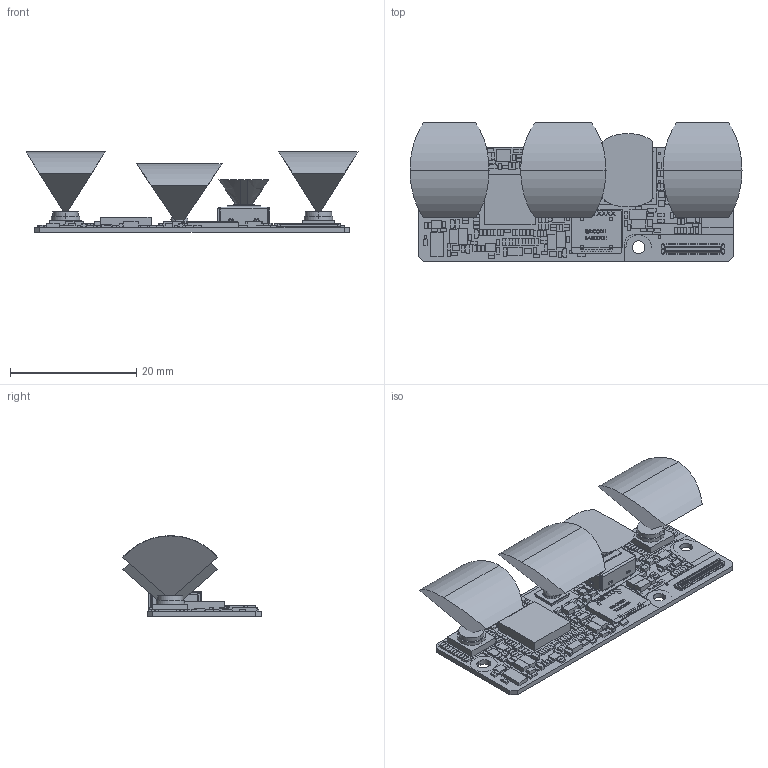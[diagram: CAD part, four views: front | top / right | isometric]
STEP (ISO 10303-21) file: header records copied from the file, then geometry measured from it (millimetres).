
FILE_DESCRIPTION (( 'STEP AP214' ), '1' );
FILE_NAME ('AM0900084 REV07 EXT 03-AUG-2020.STEP', '2020-12-10T14:31:04', ( '' ), ( '' ), 'SwSTEP 2.0', 'SolidWorks 2019', '' );
FILE_SCHEMA (( 'AUTOMOTIVE_DESIGN' ));
Length unit declared in the file: millimetre
Products named in the file (25): AM0900080 EXT; LEN000142 EXT_With FOV; ADH000076; F450 LED EXT FOV; AM0900084 REV07 EXT 03-AUG-2020; F450 EXT LENS L; F450 EXT LENS L FOV; PC0904802 components 270502020; LBL000043; AM0900096 EXT; PRJ EXT; PC09048; Part1^LEN000142 EXT; AM0900083 EXT; F450 EXT LENS R; MEC090088; AM0900095 EXT; 20708-050E; AM0900082 EXT; MEC090087; F450 EXT LENS R FOV; AM0900081 EXT; AM0900079; F450 LED EXT
Assembly tree (24 placements, depth 7):
  AM0900084 REV07 EXT 03-AUG-2020
    AM0900083 EXT
      AM0900082 EXT
        AM0900081 EXT
          AM0900080 EXT
            AM0900079
              PC09048
            20708-050E
            F450 LED EXT FOV
              F450 LED EXT
              F450 LED EXT FOV
            MEC090087
            PC0904802 components 270502020
          LEN000142 EXT_With FOV
            Part1^LEN000142 EXT
            PRJ EXT
        AM0900095 EXT
          F450 EXT LENS R
          F450 EXT LENS R FOV
        AM0900096 EXT
          F450 EXT LENS L
          F450 EXT LENS L FOV
      ADH000076
      MEC090088
      LBL000043
Bounding box: 52.5 x 21.84 x 12.75 mm (x, y, z)
Volume: 3229.2 mm3; surface area: 5608.5 mm2
Topology: 290 solids, 290 shells, 3405 faces, 7978 edges, 5254 vertices
Faces by surface type: plane 3070, cylinder 147, bspline 116, sphere 34, torus 32, cone 6
Entity records: 131419 total; most frequent: CARTESIAN_POINT 23747, ORIENTED_EDGE 15940, DIRECTION 14819, EDGE_CURVE 7970, LINE 7275, VECTOR 7275, VERTEX_POINT 5252, AXIS2_PLACEMENT_3D 3772
